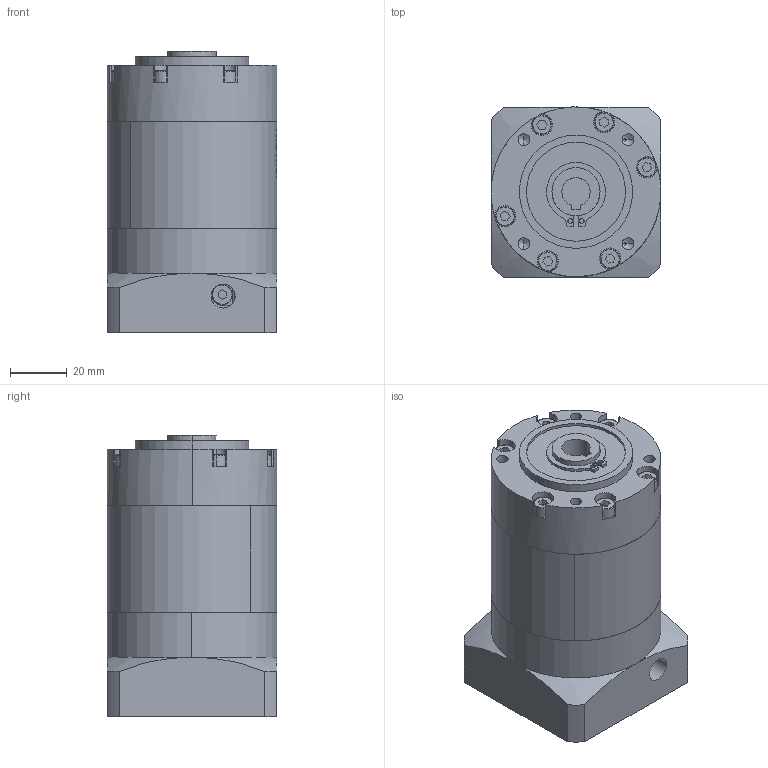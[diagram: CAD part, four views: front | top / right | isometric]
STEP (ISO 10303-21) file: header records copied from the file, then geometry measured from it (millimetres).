
FILE_DESCRIPTION (( 'STEP AP203' ), '1' );
FILE_NAME ('PBE60-L2.STEP', '2022-07-23T07:46:19', ( 'Windows User' ), ( 'P R C' ), 'SwSTEP 2.0', 'SolidWorks 2016', '' );
FILE_SCHEMA (( 'CONFIG_CONTROL_DESIGN' ));
Length unit declared in the file: millimetre
Products named in the file (7): GB／T276-94深沟球轴承61905-2RZ; PBE60-L2; 囀鞠褒蹟佪-M4℅12; PBE60 內齿圈_二级内齿圈; PBE60 奻屳唳; PBE60 狟屳唳_D6-60 D7-14 梓袧; PBE60-窣諉啣梓袧_1
Assembly tree (6 placements, depth 2):
  PBE60-L2
    囀鞠褒蹟佪-M4℅12
    PBE60 內齿圈_二级内齿圈
    PBE60 奻屳唳
    PBE60 狟屳唳_D6-60 D7-14 梓袧
    PBE60-窣諉啣梓袧_1
    GB／T276-94深沟球轴承61905-2RZ
Bounding box: 60 x 60 x 99.5 mm (x, y, z)
Volume: 249144.6 mm3; surface area: 66159.4 mm2
Topology: 6 solids, 6 shells, 967 faces, 2659 edges, 1747 vertices
Faces by surface type: plane 479, bspline 279, cylinder 187, cone 22
Entity records: 40925 total; most frequent: CARTESIAN_POINT 17347, ORIENTED_EDGE 5262, DIRECTION 4031, EDGE_CURVE 2631, VERTEX_POINT 1741, AXIS2_PLACEMENT_3D 1399, VECTOR 1233, LINE 1233
